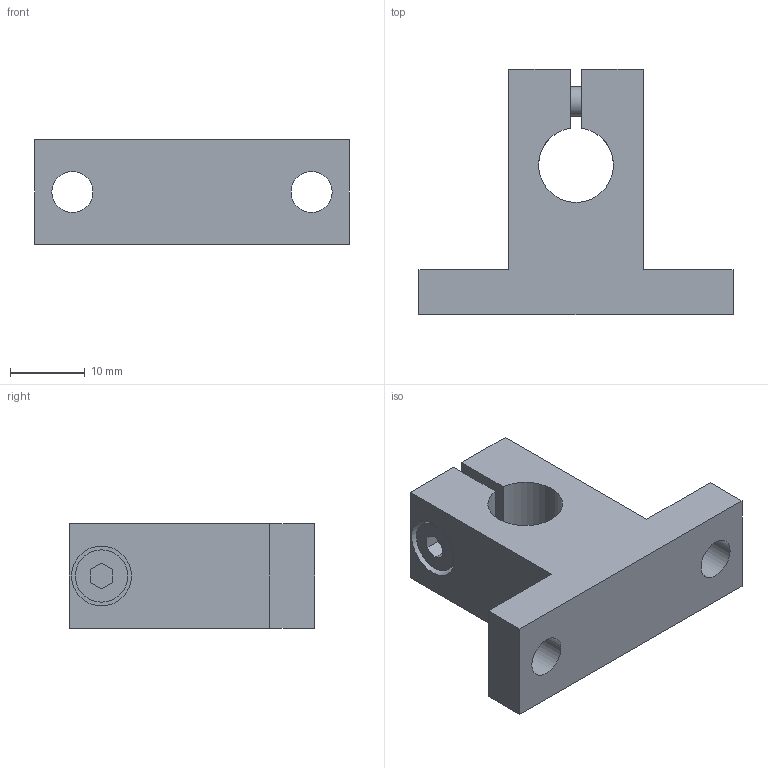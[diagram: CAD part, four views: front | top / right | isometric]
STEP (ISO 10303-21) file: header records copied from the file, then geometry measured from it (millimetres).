
FILE_DESCRIPTION(('STEP AP203'),'1');
FILE_NAME('//192.168.1.1/share/s-4 技術開発/s-4-14_個人別フォルダ/橋詰/09_CAD_DATA/3D/HP用/3Ｄモデル/SN-A/SN-10A.step','2021-09-16T02:24:27',(' '),(' '),'Spatial InterOp 3D',' ',' ');
FILE_SCHEMA(('CONFIG_CONTROL_DESIGN'));
Length unit declared in the file: millimetre
Products named in the file (2): 1; 2
Bounding box: 42 x 32.8 x 14 mm (x, y, z)
Volume: 8643.1 mm3; surface area: 4623 mm2
Topology: 2 solids, 2 shells, 34 faces, 82 edges, 55 vertices
Faces by surface type: plane 24, cylinder 9, cone 1
Full cylindrical faces by diameter (mm): 3.3 x1, 4 x2, 4.5 x1, 5.5 x2, 7 x1, 8 x1
Entity records: 1054 total; most frequent: CARTESIAN_POINT 191, DIRECTION 158, ORIENTED_EDGE 140, EDGE_CURVE 70, EDGE_LOOP 54, AXIS2_PLACEMENT_3D 53, VERTEX_POINT 52, LINE 52
